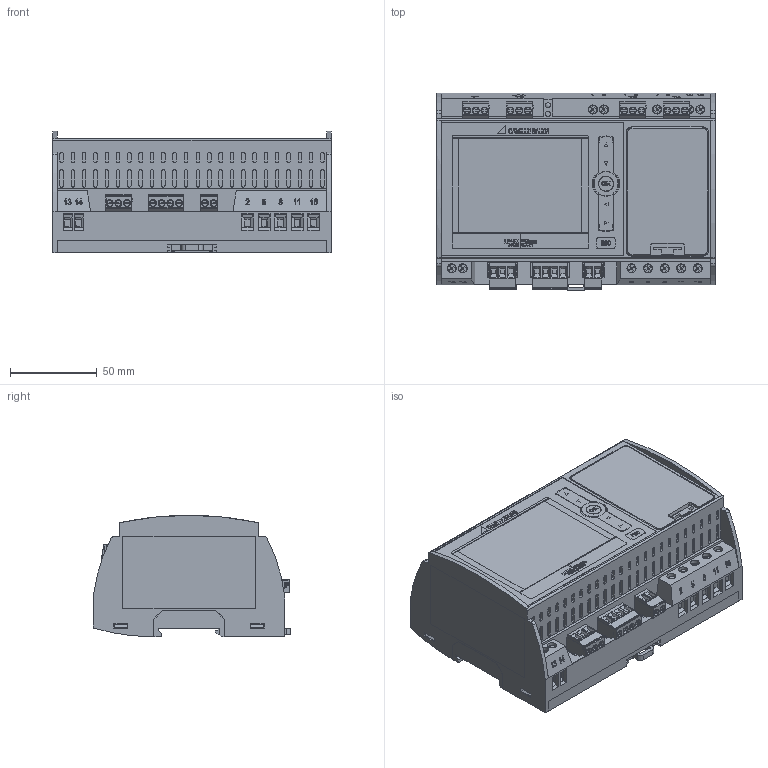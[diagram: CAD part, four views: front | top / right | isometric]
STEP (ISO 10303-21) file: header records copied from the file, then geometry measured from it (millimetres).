
FILE_DESCRIPTION (( 'STEP AP214' ), '1' );
FILE_NAME ('PQ5000 .STEP', '2017-01-27T09:55:26', ( 'inst' ), ( '' ), 'SwSTEP 2.0', 'SolidWorks 2016', '' );
FILE_SCHEMA (( 'AUTOMOTIVE_DESIGN' ));
Length unit declared in the file: millimetre
Products named in the file (1): PQ5000 
Bounding box: 160 x 113.4 x 69.81 mm (x, y, z)
Surface area: 212249.9 mm2 (no closed solid volume)
Topology: 0 solids, 69 shells, 7326 faces, 19340 edges, 12600 vertices
Faces by surface type: plane 5607, cylinder 1074, bspline 510, cone 118, torus 12, sphere 5
Full cylindrical faces by diameter (mm): 0.406 x1, 0.457 x6, 0.813 x12, 0.889 x2, 0.965 x2, 1.219 x2, 1.397 x2, 1.5 x21, 2 x2, 2.6 x15, 2.92 x1, 3 x1, 3.7 x21, 3.85 x21, 4 x21, 4.7 x15, 5 x15, 5.2 x15, 8.3 x1, 13.8 x1, 14.2 x1
Entity records: 324698 total; most frequent: CARTESIAN_POINT 67547, ORIENTED_EDGE 37810, DIRECTION 32787, EDGE_CURVE 18920, VECTOR 15167, LINE 15167, VERTEX_POINT 12461, AXIS2_PLACEMENT_3D 8810
